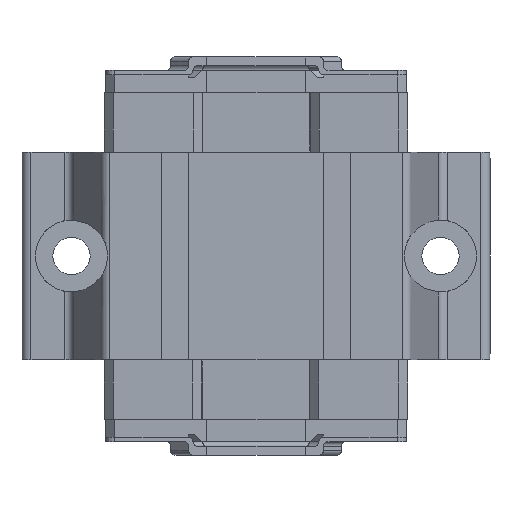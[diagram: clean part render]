
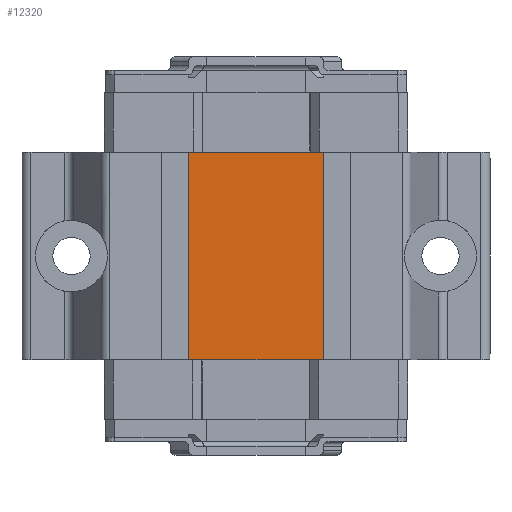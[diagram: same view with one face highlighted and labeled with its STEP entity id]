
A CAD part, front view. The second image highlights one B-rep face of the part: STEP entity #12320.
In plain terms, the highlighted planar face has unit normal (0, -1, 0).
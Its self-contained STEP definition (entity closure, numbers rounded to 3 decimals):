
#834=PLANE('',#13758);
#1488=FACE_OUTER_BOUND('',#2232,.T.);
#2232=EDGE_LOOP('',(#11429,#11430,#11431,#11432));
#3289=LINE('',#21140,#4451);
#3310=LINE('',#21232,#4472);
#3390=LINE('',#21512,#4552);
#3396=LINE('',#21526,#4558);
#4451=VECTOR('',#16848,10.);
#4472=VECTOR('',#16937,10.);
#4552=VECTOR('',#17251,10.);
#4558=VECTOR('',#17273,10.);
#6059=VERTEX_POINT('',#21137);
#6060=VERTEX_POINT('',#21139);
#6096=VERTEX_POINT('',#21229);
#6097=VERTEX_POINT('',#21231);
#7749=EDGE_CURVE('',#6059,#6060,#3289,.T.);
#7795=EDGE_CURVE('',#6097,#6096,#3310,.T.);
#7930=EDGE_CURVE('',#6096,#6060,#3390,.T.);
#7936=EDGE_CURVE('',#6097,#6059,#3396,.T.);
#11429=ORIENTED_EDGE('',*,*,#7795,.T.);
#11430=ORIENTED_EDGE('',*,*,#7930,.T.);
#11431=ORIENTED_EDGE('',*,*,#7749,.F.);
#11432=ORIENTED_EDGE('',*,*,#7936,.F.);
#12320=ADVANCED_FACE('',(#1488),#834,.T.);
#13758=AXIS2_PLACEMENT_3D('',#21525,#17271,#17272);
#16848=DIRECTION('',(1.,0.,0.));
#16937=DIRECTION('',(1.,0.,0.));
#17251=DIRECTION('',(0.,0.,1.));
#17271=DIRECTION('center_axis',(0.,-1.,0.));
#17272=DIRECTION('ref_axis',(1.,0.,0.));
#17273=DIRECTION('',(0.,0.,1.));
#21137=CARTESIAN_POINT('',(-7.5,15.4,23.1));
#21139=CARTESIAN_POINT('',(7.5,15.4,23.1));
#21140=CARTESIAN_POINT('',(-7.5,15.4,23.1));
#21229=CARTESIAN_POINT('',(7.5,15.4,0.));
#21231=CARTESIAN_POINT('',(-7.5,15.4,0.));
#21232=CARTESIAN_POINT('',(-7.5,15.4,0.));
#21512=CARTESIAN_POINT('',(7.5,15.4,0.));
#21525=CARTESIAN_POINT('Origin',(-7.5,15.4,0.));
#21526=CARTESIAN_POINT('',(-7.5,15.4,0.));
